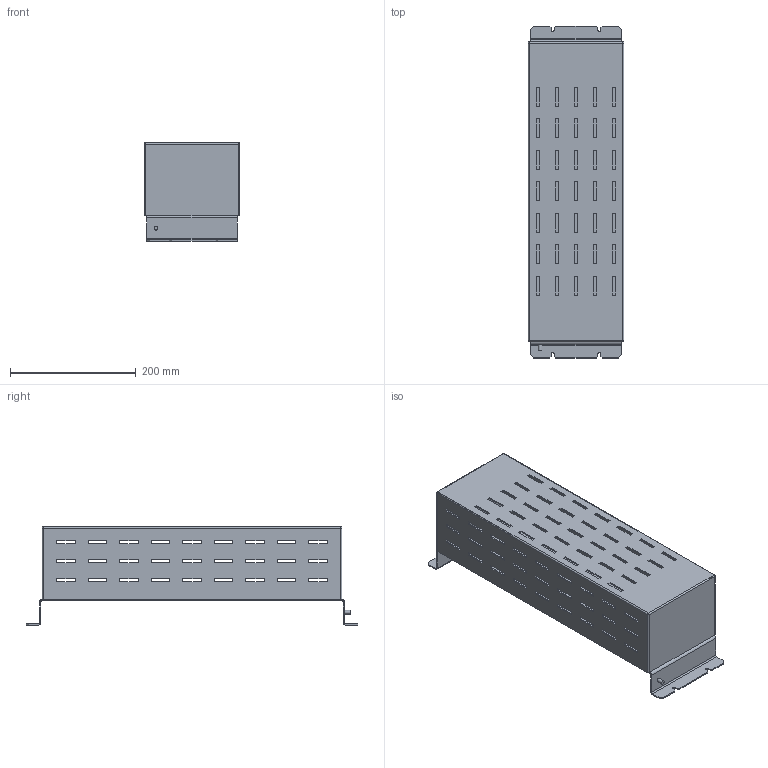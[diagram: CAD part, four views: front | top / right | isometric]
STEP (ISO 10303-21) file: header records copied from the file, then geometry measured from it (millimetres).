
FILE_DESCRIPTION(/* description */ (''),/* implementation_level */ '2;1');
FILE_NAME(/* name */ 'E:\Работа\Веда МК (Данфосс)\!Текущие задачи\2024.08.30 3D модели дросселей\Тормозные резисторы\STP\F2.stp',/* time_stamp */ '2024-09-04T07:41:54+04:00',/* author */ ('Александр (огранич)'),/* organization */ (''),/* preprocessor_version */ 'ST-DEVELOPER v18.1',/* originating_system */ 'Autodesk Inventor 2021',/* authorisation */ '');
FILE_SCHEMA (('AUTOMOTIVE_DESIGN { 1 0 10303 214 3 1 1 }'));
Length unit declared in the file: millimetre
Products named in the file (1): F1
Bounding box: 152 x 527 x 156 mm (x, y, z)
Volume: 571173.2 mm3; surface area: 587940 mm2
Topology: 1 solids, 1 shells, 448 faces, 1291 edges, 844 vertices
Faces by surface type: plane 423, cylinder 21, sphere 4
Full cylindrical faces by diameter (mm): 6 x1
Entity records: 14760 total; most frequent: CARTESIAN_POINT 2584, ORIENTED_EDGE 2582, DIRECTION 2233, EDGE_CURVE 1291, LINE 1247, VECTOR 1247, VERTEX_POINT 844, EDGE_LOOP 627
